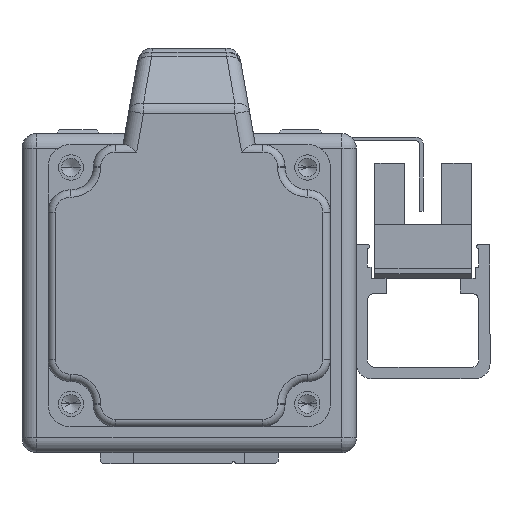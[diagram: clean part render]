
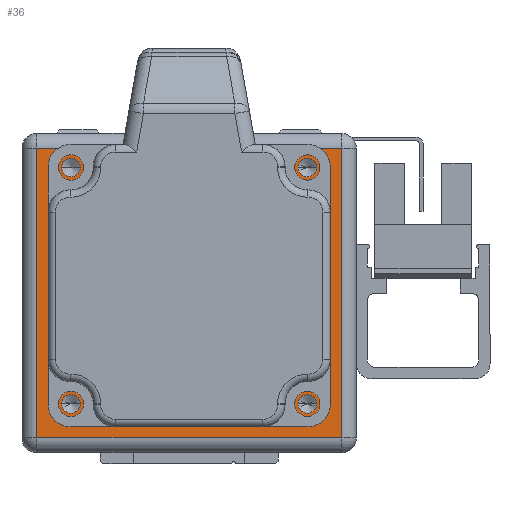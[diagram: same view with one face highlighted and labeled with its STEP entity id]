
A CAD part, left-side view. The second image highlights one B-rep face of the part: STEP entity #36.
In plain terms, the highlighted planar face has unit normal (-1, 0, 0) as drawn and (0, 0, -1) by its records, which use the part's own axes.
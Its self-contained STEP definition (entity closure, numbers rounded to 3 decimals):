
#24 = CARTESIAN_POINT ( 'NONE',  ( 20.5, 19.5, 0. ) ) ;
#36 = ADVANCED_FACE ( 'NONE', ( #365, #852, #130, #856, #883, #1046 ), #17547, .F. ) ;
#130 = FACE_BOUND ( 'NONE', #4299, .T. ) ;
#365 = FACE_BOUND ( 'NONE', #29235, .T. ) ;
#556 = VERTEX_POINT ( 'NONE', #12271 ) ;
#852 = FACE_BOUND ( 'NONE', #3106, .T. ) ;
#856 = FACE_BOUND ( 'NONE', #16723, .T. ) ;
#883 = FACE_BOUND ( 'NONE', #18697, .T. ) ;
#1046 = FACE_OUTER_BOUND ( 'NONE', #18916, .T. ) ;
#1387 = CARTESIAN_POINT ( 'NONE',  ( 15.91, 16.91, 0. ) ) ;
#1945 = VERTEX_POINT ( 'NONE', #6663 ) ;
#1962 = VERTEX_POINT ( 'NONE', #12362 ) ;
#2133 = CARTESIAN_POINT ( 'NONE',  ( 22.5, -21.5, 0. ) ) ;
#2229 = VERTEX_POINT ( 'NONE', #5029 ) ;
#2234 = ORIENTED_EDGE ( 'NONE', *, *, #8183, .F. ) ;
#2690 = CIRCLE ( 'NONE', #13016, 1.25 ) ;
#3106 = EDGE_LOOP ( 'NONE', ( #28955, #14123 ) ) ;
#3459 = DIRECTION ( 'NONE',  ( 0., 0., -1. ) ) ;
#3842 = ORIENTED_EDGE ( 'NONE', *, *, #27420, .T. ) ;
#4101 = VERTEX_POINT ( 'NONE', #27457 ) ;
#4299 = EDGE_LOOP ( 'NONE', ( #2234, #8993 ) ) ;
#4384 = ORIENTED_EDGE ( 'NONE', *, *, #8841, .T. ) ;
#4675 = VERTEX_POINT ( 'NONE', #13275 ) ;
#4787 = CIRCLE ( 'NONE', #14225, 1.25 ) ;
#5029 = CARTESIAN_POINT ( 'NONE',  ( 15.5, 1., 0. ) ) ;
#5424 = DIRECTION ( 'NONE',  ( 0., 1., 0. ) ) ;
#5538 = DIRECTION ( 'NONE',  ( -1., 0., 0. ) ) ;
#5722 = ORIENTED_EDGE ( 'NONE', *, *, #7936, .F. ) ;
#5956 = CARTESIAN_POINT ( 'NONE',  ( 22.5, -19.5, 0. ) ) ;
#5984 = EDGE_CURVE ( 'NONE', #30379, #4101, #6705, .T. ) ;
#6063 = DIRECTION ( 'NONE',  ( -1., 0., 0. ) ) ;
#6339 = CIRCLE ( 'NONE', #14013, 1.25 ) ;
#6462 = CARTESIAN_POINT ( 'NONE',  ( 15.91, -14.91, 0. ) ) ;
#6616 = DIRECTION ( 'NONE',  ( 0., -1., 0. ) ) ;
#6663 = CARTESIAN_POINT ( 'NONE',  ( -15.5, 1., 0. ) ) ;
#6680 = EDGE_CURVE ( 'NONE', #556, #12431, #13529, .T. ) ;
#6705 = CIRCLE ( 'NONE', #12662, 1.25 ) ;
#6821 = CARTESIAN_POINT ( 'NONE',  ( 0., 1., 0. ) ) ;
#6863 = EDGE_CURVE ( 'NONE', #22153, #4675, #10846, .T. ) ;
#6963 = DIRECTION ( 'NONE',  ( 1., 0., 0. ) ) ;
#7809 = DIRECTION ( 'NONE',  ( 0., 0., 1. ) ) ;
#7936 = EDGE_CURVE ( 'NONE', #12431, #556, #2690, .T. ) ;
#8075 = EDGE_CURVE ( 'NONE', #4101, #30379, #4787, .T. ) ;
#8183 = EDGE_CURVE ( 'NONE', #4675, #22153, #6339, .T. ) ;
#8330 = AXIS2_PLACEMENT_3D ( 'NONE', #6462, #23864, #8990 ) ;
#8361 = EDGE_CURVE ( 'NONE', #14521, #9203, #8546, .T. ) ;
#8509 = EDGE_CURVE ( 'NONE', #2229, #1945, #11600, .T. ) ;
#8546 = CIRCLE ( 'NONE', #25930, 1.25 ) ;
#8701 = EDGE_CURVE ( 'NONE', #11616, #26998, #12598, .T. ) ;
#8828 = ORIENTED_EDGE ( 'NONE', *, *, #8509, .T. ) ;
#8841 = EDGE_CURVE ( 'NONE', #26998, #13660, #30768, .T. ) ;
#8990 = DIRECTION ( 'NONE',  ( -1., 0., 0. ) ) ;
#8993 = ORIENTED_EDGE ( 'NONE', *, *, #6863, .F. ) ;
#9090 = EDGE_CURVE ( 'NONE', #13660, #1962, #29338, .T. ) ;
#9145 = EDGE_CURVE ( 'NONE', #1962, #11616, #27328, .T. ) ;
#9180 = ORIENTED_EDGE ( 'NONE', *, *, #9090, .T. ) ;
#9184 = CARTESIAN_POINT ( 'NONE',  ( 15.91, -14.91, 0. ) ) ;
#9203 = VERTEX_POINT ( 'NONE', #22647 ) ;
#9353 = DIRECTION ( 'NONE',  ( 1., 0., 0. ) ) ;
#10258 = DIRECTION ( 'NONE',  ( 0., 0., -1. ) ) ;
#10615 = AXIS2_PLACEMENT_3D ( 'NONE', #18740, #3459, #21068 ) ;
#10846 = CIRCLE ( 'NONE', #10615, 1.25 ) ;
#11071 = AXIS2_PLACEMENT_3D ( 'NONE', #28599, #14561, #26391 ) ;
#11600 = CIRCLE ( 'NONE', #23211, 15.5 ) ;
#11616 = VERTEX_POINT ( 'NONE', #25228 ) ;
#12158 = ORIENTED_EDGE ( 'NONE', *, *, #27770, .F. ) ;
#12271 = CARTESIAN_POINT ( 'NONE',  ( 17.16, 16.91, 0. ) ) ;
#12362 = CARTESIAN_POINT ( 'NONE',  ( -20.5, -19.5, 0. ) ) ;
#12431 = VERTEX_POINT ( 'NONE', #24381 ) ;
#12501 = CARTESIAN_POINT ( 'NONE',  ( -14.66, 16.91, 0. ) ) ;
#12517 = DIRECTION ( 'NONE',  ( 0., 0., -1. ) ) ;
#12536 = VECTOR ( 'NONE', #29866, 1000. ) ;
#12598 = LINE ( 'NONE', #21267, #12536 ) ;
#12662 = AXIS2_PLACEMENT_3D ( 'NONE', #16771, #10258, #26618 ) ;
#12921 = DIRECTION ( 'NONE',  ( 0., 0., -1. ) ) ;
#13016 = AXIS2_PLACEMENT_3D ( 'NONE', #1387, #19173, #14024 ) ;
#13234 = AXIS2_PLACEMENT_3D ( 'NONE', #6821, #24175, #9353 ) ;
#13275 = CARTESIAN_POINT ( 'NONE',  ( -17.16, -14.91, 0. ) ) ;
#13529 = CIRCLE ( 'NONE', #11071, 1.25 ) ;
#13610 = DIRECTION ( 'NONE',  ( -1., 0., 0. ) ) ;
#13660 = VERTEX_POINT ( 'NONE', #26901 ) ;
#13958 = CARTESIAN_POINT ( 'NONE',  ( 14.66, -14.91, 0. ) ) ;
#14013 = AXIS2_PLACEMENT_3D ( 'NONE', #29137, #12517, #5538 ) ;
#14024 = DIRECTION ( 'NONE',  ( -1., 0., 0. ) ) ;
#14123 = ORIENTED_EDGE ( 'NONE', *, *, #5984, .F. ) ;
#14225 = AXIS2_PLACEMENT_3D ( 'NONE', #21089, #12921, #6063 ) ;
#14226 = ORIENTED_EDGE ( 'NONE', *, *, #9145, .T. ) ;
#14521 = VERTEX_POINT ( 'NONE', #13958 ) ;
#14561 = DIRECTION ( 'NONE',  ( 0., 0., -1. ) ) ;
#16000 = DIRECTION ( 'NONE',  ( -1., 0., 0. ) ) ;
#16723 = EDGE_LOOP ( 'NONE', ( #17586, #12158 ) ) ;
#16771 = CARTESIAN_POINT ( 'NONE',  ( -15.91, 16.91, 0. ) ) ;
#17547 = PLANE ( 'NONE',  #30334 ) ;
#17586 = ORIENTED_EDGE ( 'NONE', *, *, #8361, .F. ) ;
#18051 = DIRECTION ( 'NONE',  ( 1., 0., 0. ) ) ;
#18109 = ORIENTED_EDGE ( 'NONE', *, *, #8701, .T. ) ;
#18697 = EDGE_LOOP ( 'NONE', ( #3842, #8828 ) ) ;
#18740 = CARTESIAN_POINT ( 'NONE',  ( -15.91, -14.91, 0. ) ) ;
#18916 = EDGE_LOOP ( 'NONE', ( #18109, #4384, #9180, #14226 ) ) ;
#19173 = DIRECTION ( 'NONE',  ( 0., 0., -1. ) ) ;
#21068 = DIRECTION ( 'NONE',  ( -1., 0., 0. ) ) ;
#21089 = CARTESIAN_POINT ( 'NONE',  ( -15.91, 16.91, 0. ) ) ;
#21267 = CARTESIAN_POINT ( 'NONE',  ( 22.5, 19.5, 0. ) ) ;
#21799 = CIRCLE ( 'NONE', #13234, 15.5 ) ;
#22153 = VERTEX_POINT ( 'NONE', #23388 ) ;
#22647 = CARTESIAN_POINT ( 'NONE',  ( 17.16, -14.91, 0. ) ) ;
#22771 = CARTESIAN_POINT ( 'NONE',  ( 0., 1., 0. ) ) ;
#23026 = CIRCLE ( 'NONE', #8330, 1.25 ) ;
#23211 = AXIS2_PLACEMENT_3D ( 'NONE', #22771, #7809, #18051 ) ;
#23388 = CARTESIAN_POINT ( 'NONE',  ( -14.66, -14.91, 0. ) ) ;
#23864 = DIRECTION ( 'NONE',  ( 0., 0., -1. ) ) ;
#24034 = DIRECTION ( 'NONE',  ( 0., 0., -1. ) ) ;
#24175 = DIRECTION ( 'NONE',  ( 0., 0., 1. ) ) ;
#24381 = CARTESIAN_POINT ( 'NONE',  ( 14.66, 16.91, 0. ) ) ;
#25226 = CARTESIAN_POINT ( 'NONE',  ( -20.5, -21.5, 0. ) ) ;
#25228 = CARTESIAN_POINT ( 'NONE',  ( -20.5, 19.5, 0. ) ) ;
#25930 = AXIS2_PLACEMENT_3D ( 'NONE', #9184, #24034, #16000 ) ;
#26193 = CARTESIAN_POINT ( 'NONE',  ( 20.5, -21.5, 0. ) ) ;
#26391 = DIRECTION ( 'NONE',  ( -1., 0., 0. ) ) ;
#26618 = DIRECTION ( 'NONE',  ( -1., 0., 0. ) ) ;
#26827 = VECTOR ( 'NONE', #6616, 1000. ) ;
#26855 = VECTOR ( 'NONE', #13610, 1000. ) ;
#26901 = CARTESIAN_POINT ( 'NONE',  ( 20.5, -19.5, 0. ) ) ;
#26998 = VERTEX_POINT ( 'NONE', #24 ) ;
#27328 = LINE ( 'NONE', #25226, #29618 ) ;
#27420 = EDGE_CURVE ( 'NONE', #1945, #2229, #21799, .T. ) ;
#27457 = CARTESIAN_POINT ( 'NONE',  ( -17.16, 16.91, 0. ) ) ;
#27770 = EDGE_CURVE ( 'NONE', #9203, #14521, #23026, .T. ) ;
#28599 = CARTESIAN_POINT ( 'NONE',  ( 15.91, 16.91, 0. ) ) ;
#28955 = ORIENTED_EDGE ( 'NONE', *, *, #8075, .F. ) ;
#29137 = CARTESIAN_POINT ( 'NONE',  ( -15.91, -14.91, 0. ) ) ;
#29235 = EDGE_LOOP ( 'NONE', ( #5722, #29311 ) ) ;
#29311 = ORIENTED_EDGE ( 'NONE', *, *, #6680, .F. ) ;
#29338 = LINE ( 'NONE', #5956, #26855 ) ;
#29618 = VECTOR ( 'NONE', #5424, 1000. ) ;
#29866 = DIRECTION ( 'NONE',  ( 1., 0., 0. ) ) ;
#30334 = AXIS2_PLACEMENT_3D ( 'NONE', #2133, #30879, #6963 ) ;
#30379 = VERTEX_POINT ( 'NONE', #12501 ) ;
#30768 = LINE ( 'NONE', #26193, #26827 ) ;
#30879 = DIRECTION ( 'NONE',  ( 0., 0., 1. ) ) ;
